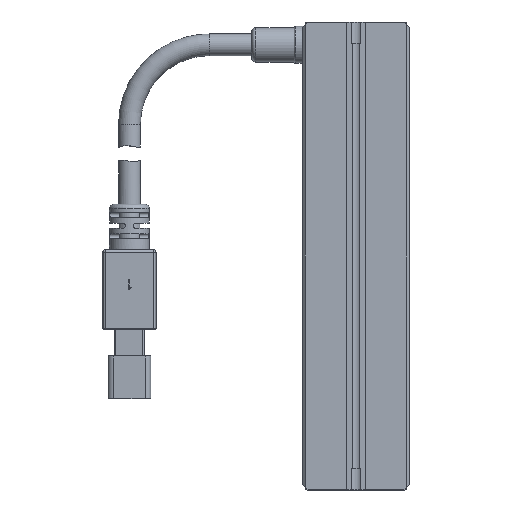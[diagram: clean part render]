
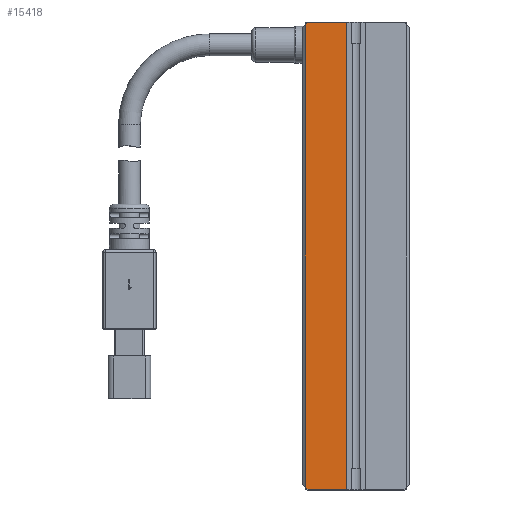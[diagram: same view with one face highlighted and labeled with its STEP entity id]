
A CAD part, front view. The second image highlights one B-rep face of the part: STEP entity #15418.
In plain terms, the highlighted planar face has unit normal (0, -1, 0).
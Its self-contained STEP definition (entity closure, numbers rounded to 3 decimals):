
#99 = CARTESIAN_POINT ( 'NONE',  ( -48.5, 0., -4.5 ) ) ;
#210 = VECTOR ( 'NONE', #4985, 1000. ) ;
#263 = DIRECTION ( 'NONE',  ( -1., 0., 0. ) ) ;
#977 = CARTESIAN_POINT ( 'NONE',  ( -9., 0., 44. ) ) ;
#2040 = ORIENTED_EDGE ( 'NONE', *, *, #13930, .T. ) ;
#2133 = DIRECTION ( 'NONE',  ( 0., 0., -1. ) ) ;
#2294 = EDGE_CURVE ( 'NONE', #7031, #16823, #4360, .T. ) ;
#3063 = ORIENTED_EDGE ( 'NONE', *, *, #5270, .T. ) ;
#3133 = ORIENTED_EDGE ( 'NONE', *, *, #12438, .T. ) ;
#3240 = CARTESIAN_POINT ( 'NONE',  ( -1.75, 0., 44. ) ) ;
#3555 = VERTEX_POINT ( 'NONE', #15248 ) ;
#3934 = VERTEX_POINT ( 'NONE', #13555 ) ;
#4207 = VERTEX_POINT ( 'NONE', #17224 ) ;
#4235 = CARTESIAN_POINT ( 'NONE',  ( -9.5, 0., 44. ) ) ;
#4360 = LINE ( 'NONE', #15180, #210 ) ;
#4643 = ORIENTED_EDGE ( 'NONE', *, *, #18394, .F. ) ;
#4815 = VECTOR ( 'NONE', #2133, 1000. ) ;
#4969 = LINE ( 'NONE', #4235, #15559 ) ;
#4985 = DIRECTION ( 'NONE',  ( -1., 0., 0. ) ) ;
#5270 = EDGE_CURVE ( 'NONE', #4207, #3934, #4969, .T. ) ;
#5378 = DIRECTION ( 'NONE',  ( 0., -1., 0. ) ) ;
#5384 = ORIENTED_EDGE ( 'NONE', *, *, #2294, .T. ) ;
#5504 = DIRECTION ( 'NONE',  ( 1., 0., 0. ) ) ;
#6835 = AXIS2_PLACEMENT_3D ( 'NONE', #9915, #5378, #5504 ) ;
#7031 = VERTEX_POINT ( 'NONE', #10889 ) ;
#7577 = LINE ( 'NONE', #99, #18400 ) ;
#7989 = DIRECTION ( 'NONE',  ( -0.707, 0., -0.707 ) ) ;
#8561 = CARTESIAN_POINT ( 'NONE',  ( -9., 0., -44. ) ) ;
#8778 = VECTOR ( 'NONE', #7989, 1000. ) ;
#9698 = LINE ( 'NONE', #16830, #8778 ) ;
#9915 = CARTESIAN_POINT ( 'NONE',  ( 0., 0., 44. ) ) ;
#10889 = CARTESIAN_POINT ( 'NONE',  ( -1.75, 0., 44. ) ) ;
#11654 = DIRECTION ( 'NONE',  ( 0., 0., -1. ) ) ;
#12438 = EDGE_CURVE ( 'NONE', #16823, #4207, #9698, .T. ) ;
#12629 = EDGE_LOOP ( 'NONE', ( #5384, #3133, #3063, #2040, #17385, #4643 ) ) ;
#12683 = PLANE ( 'NONE',  #6835 ) ;
#13299 = FACE_OUTER_BOUND ( 'NONE', #12629, .T. ) ;
#13488 = LINE ( 'NONE', #14782, #19033 ) ;
#13555 = CARTESIAN_POINT ( 'NONE',  ( -9.5, 0., -43.5 ) ) ;
#13836 = VERTEX_POINT ( 'NONE', #8561 ) ;
#13930 = EDGE_CURVE ( 'NONE', #3934, #13836, #7577, .T. ) ;
#14687 = DIRECTION ( 'NONE',  ( 0.707, 0., -0.707 ) ) ;
#14782 = CARTESIAN_POINT ( 'NONE',  ( 0., 0., -44. ) ) ;
#15180 = CARTESIAN_POINT ( 'NONE',  ( 0., 0., 44. ) ) ;
#15248 = CARTESIAN_POINT ( 'NONE',  ( -1.75, 0., -44. ) ) ;
#15418 = ADVANCED_FACE ( 'NONE', ( #13299 ), #12683, .T. ) ;
#15559 = VECTOR ( 'NONE', #11654, 1000. ) ;
#16784 = LINE ( 'NONE', #3240, #4815 ) ;
#16823 = VERTEX_POINT ( 'NONE', #977 ) ;
#16830 = CARTESIAN_POINT ( 'NONE',  ( -4.5, 0., 48.5 ) ) ;
#17014 = EDGE_CURVE ( 'NONE', #3555, #13836, #13488, .T. ) ;
#17224 = CARTESIAN_POINT ( 'NONE',  ( -9.5, 0., 43.5 ) ) ;
#17385 = ORIENTED_EDGE ( 'NONE', *, *, #17014, .F. ) ;
#18394 = EDGE_CURVE ( 'NONE', #7031, #3555, #16784, .T. ) ;
#18400 = VECTOR ( 'NONE', #14687, 1000. ) ;
#19033 = VECTOR ( 'NONE', #263, 1000. ) ;
